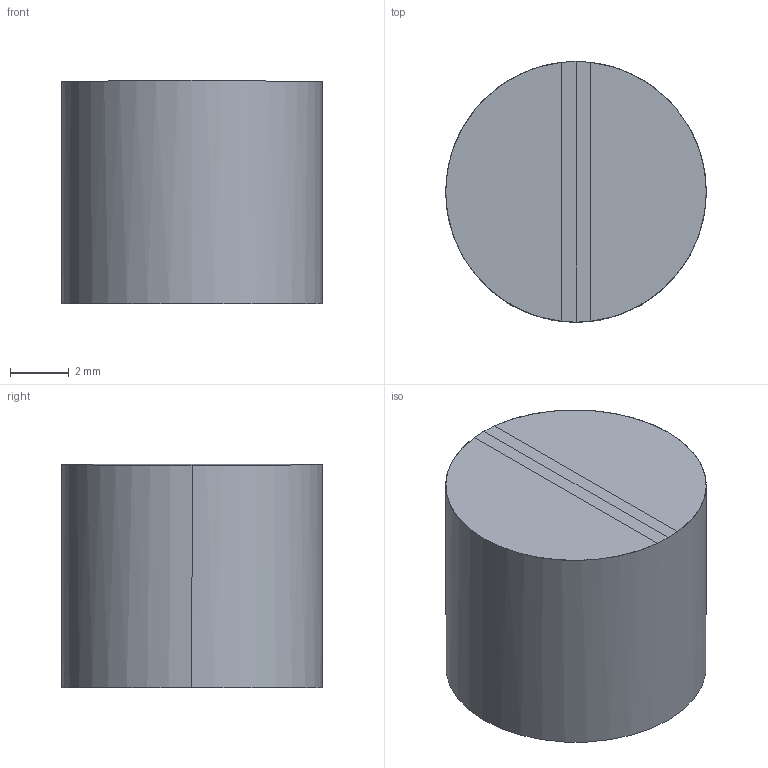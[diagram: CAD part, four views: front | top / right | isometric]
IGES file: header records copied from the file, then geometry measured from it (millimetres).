
Start section: 3D InterOp IGES (Version 19 0 3), Spatial Corp. Copyright (c) 1999-2007.
Global section: file name: export0.igs; native system: Spatial Corp.; preprocessor: 3D InterOp ACIS/IGES; author: Noname; organization: Noname; date: 20110718.114152; units: centimetre
Bounding box: 8.89 x 8.89 x 7.63 mm (x, y, z)
Surface area: 336.3 mm2 (no closed solid volume)
Topology: 0 solids, 0 shells, 7 faces, 30 edges, 30 vertices
Faces by surface type: extrusion 3, revolution 2, bspline 2
